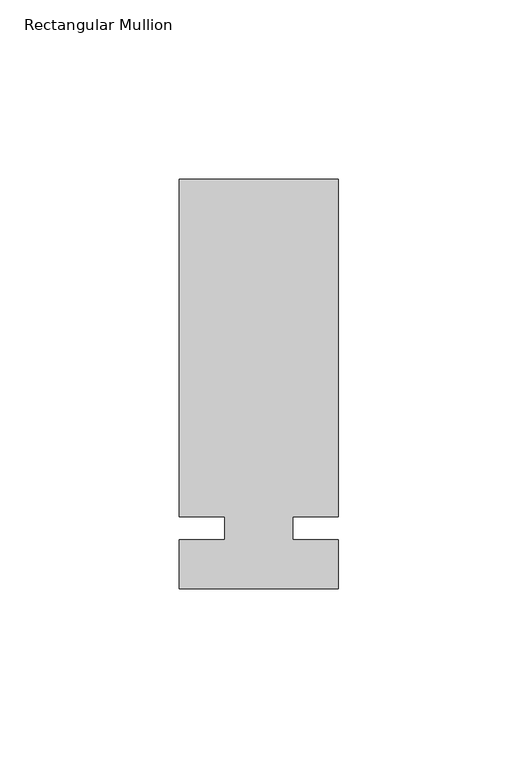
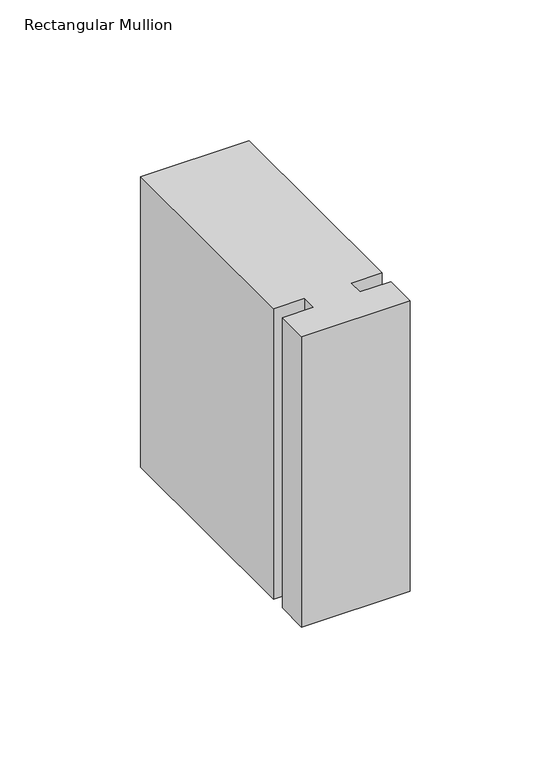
"""IFC4 building model written with IfcOpenShell, lengths in millimetres: member geometry, Rectangular Mullion : Kawneer-TRIFAB_VG_450_BACK_SB_Vertical."""

from ifc_helpers import new_model, si_unit, frame, origin, place, context, project, spatial, polyline, outline, extrude, source, transform, mapped, element, save


def rectangular_mullion_a1e8f6e1(model_context):
    return source(origin(), model_context, "Body", "SweptSolid", [
        extrude(outline(polyline([(22.225, -16.8532346), (-22.225, -16.8532346), (-22.225, -3.175), (-9.525, -3.175), (-9.525, 3.175), (-22.225, 3.175), (-22.225, 97.4467654), (22.225, 97.4467654), (22.225, 3.175), (9.5232296, 3.175), (9.5232296, -3.175), (22.225, -3.175), (22.225, -16.8532346)])), frame((0.0, 0.0, -125.8405973), z_axis=(0.0, 0.0, 1.0), x_axis=(1.0, 0.0, 0.0)), (0.0, 0.0, 1.0), 125.8405973),
    ])


if __name__ == "__main__":
    model = new_model("IFC4")
    model_context = context("Model", 3, world=origin())
    ifc_project = project(units=[si_unit("LENGTHUNIT", "METRE", prefix="MILLI")], contexts=[model_context])
    site = spatial("IfcSite", under=ifc_project)
    building = spatial("IfcBuilding", under=site)
    placement = place(None, origin())
    rectangular_mullion_shape = rectangular_mullion_a1e8f6e1(model_context)
    element("IfcMember", 1, ObjectType="Rectangular Mullion : Kawneer-TRIFAB_VG_450_BACK_SB_Vertical", at=placement, inside=building, context=model_context, shape_type="MappedRepresentation", body=[
        mapped(rectangular_mullion_shape, transform((0.0, 0.0, 0.0), x_axis=(1.0, 0.0, 0.0), y_axis=(0.0, 1.0, 0.0), z_axis=(0.0, 0.0, 1.0))),
    ])
    save(model, "model.ifc")
